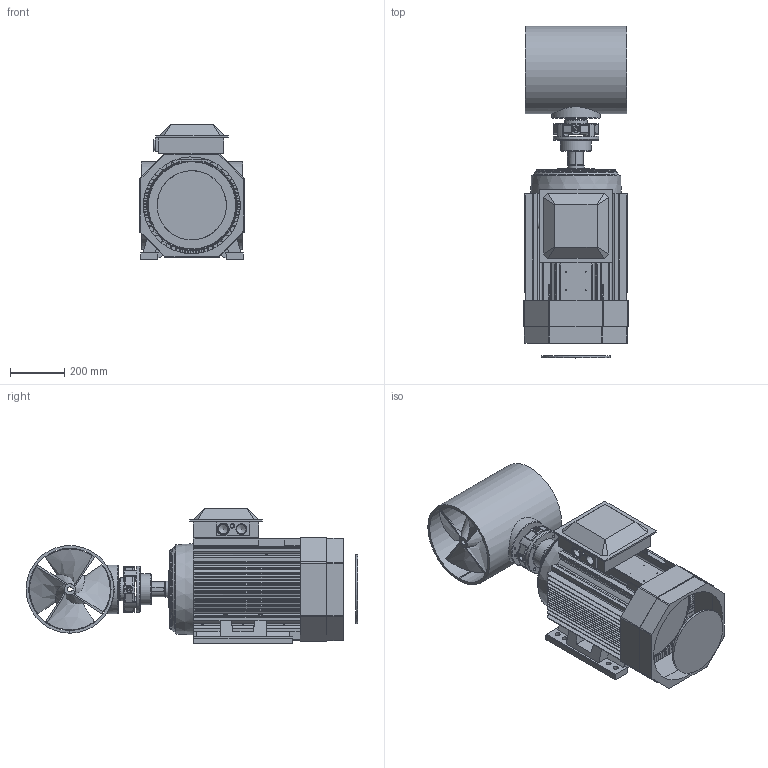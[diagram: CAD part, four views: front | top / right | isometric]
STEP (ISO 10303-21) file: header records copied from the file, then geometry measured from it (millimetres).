
FILE_DESCRIPTION(/* description */ (''),/* implementation_level */ '2;1');
FILE_NAME(/* name */ 'Q:\THRUSTERS\THRUSTER SALES & SUPPORT DOCS\THRUSTER Sales\E-T\E-0300-T\E-0300-T.stp',/* time_stamp */ '2021-01-27T16:11:31+00:00',/* author */ ('Barney.Webborn'),/* organization */ (''),/* preprocessor_version */ 'ST-DEVELOPER v17.2',/* originating_system */ 'Autodesk Inventor 2019',/* authorisation */ '');
FILE_SCHEMA (('AUTOMOTIVE_DESIGN { 1 0 10303 214 3 1 1 }'));
Products named in the file (1): E-0300-T_Shrinkwrap_1
Bounding box: 386 x 1229.4 x 498.93 mm (x, y, z)
Volume: 55281282.3 mm3; surface area: 5059337.2 mm2
Topology: 6 solids, 6 shells, 2337 faces, 6547 edges, 4300 vertices
Faces by surface type: cylinder 1109, plane 963, cone 92, bspline 88, torus 53, sphere 32
Full cylindrical faces by diameter (mm): 3.3 x4, 4.2 x36, 5.5 x20, 8 x1, 8.3 x2, 9 x12, 12 x8, 14 x1, 14.25 x4, 16 x1, 18.025 x8, 21 x1, 22 x12, 25 x3, 35 x2, 40 x1, 44.942 x1, 45 x2, 52 x2, 54.4 x1, 60 x1, 70 x2, 71 x1, 74 x1, 85 x1, 100 x1, 101 x2, 115 x1, 118 x2, 136 x2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
Entity records: 88671 total; most frequent: CARTESIAN_POINT 24405, DIRECTION 13337, ORIENTED_EDGE 12966, EDGE_CURVE 6483, AXIS2_PLACEMENT_3D 4915, VERTEX_POINT 4300, LINE 3507, VECTOR 3507
